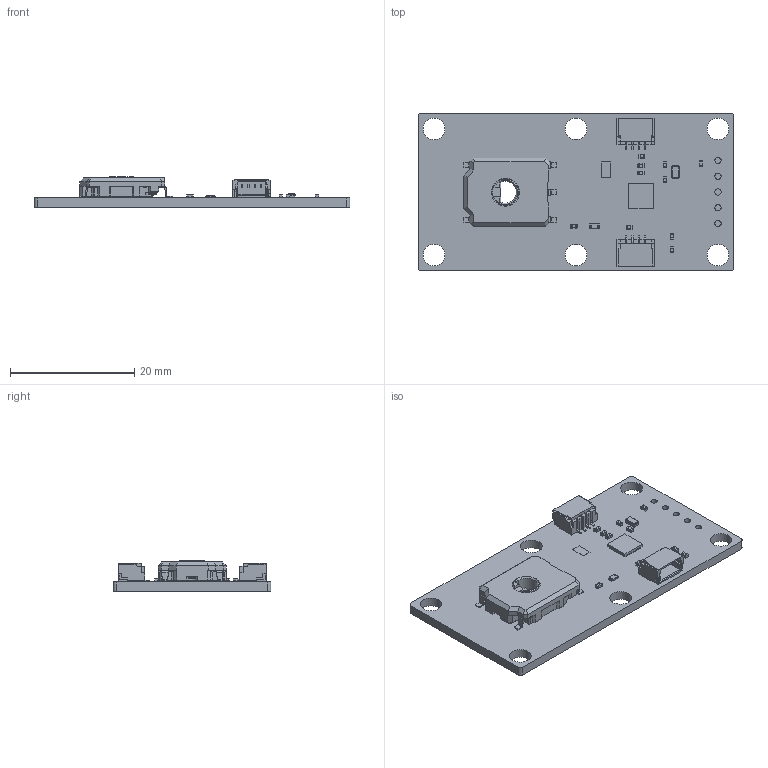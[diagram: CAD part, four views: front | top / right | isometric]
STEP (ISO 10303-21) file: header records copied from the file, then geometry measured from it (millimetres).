
FILE_DESCRIPTION(('STEP AP214'),'1');
FILE_NAME('Res_RDC9_only.step','2026-07-15T15:31:16',(' '),(' '),'Spatial InterOp 3D','XD3DPlugin XRACreate',' ');
FILE_SCHEMA(('automotive_design'));
Length unit declared in the file: millimetre
Products named in the file (36): DesignRootModel; uid__9223372036937120530; Submodel-noModelForPart_SOLDERJUMPER1_126423164; placementOutline; Submodel-SOLDERJUMPER1_126423164_part_SOLDERJUMPER_2P1_3MM; Submodel-noModelForPart_1_PIN_HEADER_3850110376; Submodel-1_PIN_HEADER_3850110376_part_JMP1; Submodel-T:\Core EE\CTB\Cirque - Active 5.19.26\Quiic\Layout\Resistive_Postion_Sensor\Two\For 3d only\Res_RDC9_PCB\3D\ImportedPartModels\RDC9010007.stp; RDC9010007.xtd; Submodel-RDC9010007_part_RDC9010007-TEMP; Submodel-noModelForPart_SOLDERJUMPER3_1695375081; Submodel-SOLDERJUMPER3_1695375081_part_SOLDERJUMPER-3_BRIDGED; Submodel-T:\Core EE\CTB\Cirque - Active 5.19.26\Quiic\Layout\Resistive_Postion_Sensor\Two\For 3d only\Res_RDC9_PCB\3D\ImportedPartModels\GCM1555C1H471FA16D.step; GCM1555C1H471FA16D.xtd; Submodel-RK73G1ETTP5100F_part_RKE_0402; Submodel-T:\Core EE\CTB\Cirque - Active 5.19.26\Quiic\Layout\Resistive_Postion_Sensor\Two\For 3d only\Res_RDC9_PCB\3D\ImportedPartModels\LTST-C193KRKT-5A.STEP; LTST-C193KRKT-5A.xtd; Submodel-LTST-C193KRKT-5A_part_RKE_0603_DIODE; Submodel-T:\Core EE\CTB\Cirque - Active 5.19.26\Quiic\Layout\Resistive_Postion_Sensor\Two\For 3d only\Res_RDC9_PCB\3D\ImportedPartModels\STM32G071GBU6.step; STM32G071GBU6.xtd; Submodel-STM32G071GXU_part_UFQFPN_28; Submodel-T:\Core EE\CTB\Cirque - Active 5.19.26\Quiic\Layout\Resistive_Postion_Sensor\Two\For 3d only\Res_RDC9_PCB\3D\ImportedPartModels\SM04B-SRSS-TB.STEP; SM04B-SRSS-TB.xtd; Submodel-SM04B-SRSS-TB_part_CONN_SM04B_SRSS_TB_JST; Submodel-RK73B1ETTP103J_part_RKE_0402; Submodel-GRM155R61A475MEAAD_part_RKE_0402; Submodel-GCM1555C1H5R0BA16D_part_RKE_0402; Submodel-GCM155R71C104JA55D_part_RKE_0402; Submodel-GCM155R71A104KA55D_part_RKE_0402; Submodel-T:\Core EE\CTB\Cirque - Active 5.19.26\Quiic\Layout\Resistive_Postion_Sensor\Two\For 3d only\Res_RDC9_PCB\3D\ImportedPartModels\ECS-.327-6-12RR-TR.STEP; ECS-.327-6-12RR-TR.xtd; Submodel-ECS-R327-6-12RR-TR_part_2012_XTAL; Res_RDC9_only; Res_RDC9_only_Copper
Assembly tree (51 placements, depth 5):
  Res_RDC9_only
    DesignRootModel
      uid__9223372036937120530
      Submodel-SOLDERJUMPER1_126423164_part_SOLDERJUMPER_2P1_3MM  x3
        Submodel-noModelForPart_SOLDERJUMPER1_126423164
          placementOutline
      Submodel-1_PIN_HEADER_3850110376_part_JMP1  x5
        Submodel-noModelForPart_1_PIN_HEADER_3850110376
          placementOutline
      Submodel-RDC9010007_part_RDC9010007-TEMP
        Submodel-T:\Core EE\CTB\Cirque - Active 5.19.26\Quiic\Layout\Resistive_Postion_Sensor\Two\For 3d only\Res_RDC9_PCB\3D\ImportedPartModels\RDC9010007.stp
          RDC9010007.xtd
      Submodel-SOLDERJUMPER3_1695375081_part_SOLDERJUMPER-3_BRIDGED
        Submodel-noModelForPart_SOLDERJUMPER3_1695375081
          placementOutline
      Submodel-RK73G1ETTP5100F_part_RKE_0402
        Submodel-T:\Core EE\CTB\Cirque - Active 5.19.26\Quiic\Layout\Resistive_Postion_Sensor\Two\For 3d only\Res_RDC9_PCB\3D\ImportedPartModels\GCM1555C1H471FA16D.step
          GCM1555C1H471FA16D.xtd
      Submodel-LTST-C193KRKT-5A_part_RKE_0603_DIODE
        Submodel-T:\Core EE\CTB\Cirque - Active 5.19.26\Quiic\Layout\Resistive_Postion_Sensor\Two\For 3d only\Res_RDC9_PCB\3D\ImportedPartModels\LTST-C193KRKT-5A.STEP
          LTST-C193KRKT-5A.xtd
      Submodel-STM32G071GXU_part_UFQFPN_28
        Submodel-T:\Core EE\CTB\Cirque - Active 5.19.26\Quiic\Layout\Resistive_Postion_Sensor\Two\For 3d only\Res_RDC9_PCB\3D\ImportedPartModels\STM32G071GBU6.step
          STM32G071GBU6.xtd
      Submodel-SM04B-SRSS-TB_part_CONN_SM04B_SRSS_TB_JST  x2
        Submodel-T:\Core EE\CTB\Cirque - Active 5.19.26\Quiic\Layout\Resistive_Postion_Sensor\Two\For 3d only\Res_RDC9_PCB\3D\ImportedPartModels\SM04B-SRSS-TB.STEP
          SM04B-SRSS-TB.xtd
      Submodel-RK73B1ETTP103J_part_RKE_0402  x2
        Submodel-T:\Core EE\CTB\Cirque - Active 5.19.26\Quiic\Layout\Resistive_Postion_Sensor\Two\For 3d only\Res_RDC9_PCB\3D\ImportedPartModels\GCM1555C1H471FA16D.step
          GCM1555C1H471FA16D.xtd
      Submodel-GRM155R61A475MEAAD_part_RKE_0402
        Submodel-T:\Core EE\CTB\Cirque - Active 5.19.26\Quiic\Layout\Resistive_Postion_Sensor\Two\For 3d only\Res_RDC9_PCB\3D\ImportedPartModels\GCM1555C1H471FA16D.step
          GCM1555C1H471FA16D.xtd
      Submodel-GCM1555C1H5R0BA16D_part_RKE_0402  x2
        Submodel-T:\Core EE\CTB\Cirque - Active 5.19.26\Quiic\Layout\Resistive_Postion_Sensor\Two\For 3d only\Res_RDC9_PCB\3D\ImportedPartModels\GCM1555C1H471FA16D.step
          GCM1555C1H471FA16D.xtd
      Submodel-GCM155R71C104JA55D_part_RKE_0402  x3
        Submodel-T:\Core EE\CTB\Cirque - Active 5.19.26\Quiic\Layout\Resistive_Postion_Sensor\Two\For 3d only\Res_RDC9_PCB\3D\ImportedPartModels\GCM1555C1H471FA16D.step
          GCM1555C1H471FA16D.xtd
      Submodel-GCM155R71A104KA55D_part_RKE_0402
        Submodel-T:\Core EE\CTB\Cirque - Active 5.19.26\Quiic\Layout\Resistive_Postion_Sensor\Two\For 3d only\Res_RDC9_PCB\3D\ImportedPartModels\GCM1555C1H471FA16D.step
          GCM1555C1H471FA16D.xtd
      Submodel-ECS-R327-6-12RR-TR_part_2012_XTAL
        Submodel-T:\Core EE\CTB\Cirque - Active 5.19.26\Quiic\Layout\Resistive_Postion_Sensor\Two\For 3d only\Res_RDC9_PCB\3D\ImportedPartModels\ECS-.327-6-12RR-TR.STEP
          ECS-.327-6-12RR-TR.xtd
    Res_RDC9_only_Copper
Bounding box: 50.8 x 25.4 x 4.99 mm (x, y, z)
Volume: 2260.9 mm3; surface area: 3855.4 mm2
Topology: 96 solids, 96 shells, 2028 faces, 5213 edges, 3298 vertices
Faces by surface type: plane 1429, cylinder 470, sphere 80, cone 27, torus 20, bspline 2
Full cylindrical faces by diameter (mm): 1 x5, 3.5 x6
Entity records: 352045 total; most frequent: ORIENTED_EDGE 67528, DIRECTION 58713, EDGE_CURVE 33764, LINE 33045, VECTOR 33045, CARTESIAN_POINT 27737, VERTEX_POINT 22468, AXIS2_PLACEMENT_3D 12834
